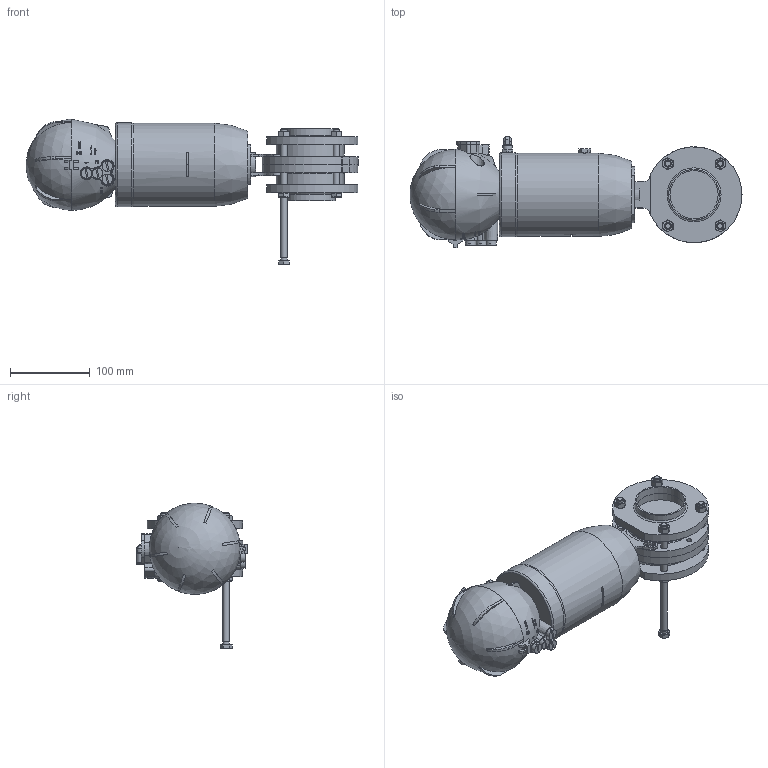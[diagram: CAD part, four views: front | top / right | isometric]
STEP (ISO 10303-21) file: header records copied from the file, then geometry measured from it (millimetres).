
FILE_DESCRIPTION(/* description */ ('ZVF V.FARF.DN63.5X1.65 WAF4 MACH98 SE NC 316 EPDM'),/* implementation_level */ '2;1');
FILE_NAME(/* name */ 'C:\_DED_PWS\ZIGN-L\DB\B\EAA\BEAAD9212BEBF-00^SAGOMA.step',/* time_stamp */ '2022-07-15T12:09:57+02:00',/* author */ (''),/* organization */ (''),/* preprocessor_version */ 'ST-DEVELOPER v18.1',/* originating_system */ 'Autodesk Inventor 2022',/* authorisation */ '');
FILE_SCHEMA (('CONFIG_CONTROL_DESIGN'));
Length unit declared in the file: millimetre
Products named in the file (10): BEAAD9212BEBF; 3DAAZVFAA054; Supporto-farf-DN25-65-; TWD031212BBA; TPM022212BBA; RBIAA.M08; RBAAA08X80-00_MIR1; RBIAA.M08-00_MIR1; RBAAA08X80; 3DAAJGIOAA006
Assembly tree (16 placements, depth 2):
  BEAAD9212BEBF
    3DAAZVFAA054
    Supporto-farf-DN25-65-
    TWD031212BBA  x2
    TPM022212BBA  x2
    RBAAA08X80  x3
    RBIAA.M08  x2
    RBAAA08X80-00_MIR1  x2
    RBIAA.M08-00_MIR1  x2
    3DAAJGIOAA006
Bounding box: 415.46 x 139.09 x 181.97 mm (x, y, z)
Volume: 2815770.9 mm3; surface area: 279929 mm2
Topology: 17 solids, 17 shells, 1234 faces, 3206 edges, 2075 vertices
Faces by surface type: plane 833, cylinder 169, cone 159, bspline 56, torus 16, sphere 1
Full cylindrical faces by diameter (mm): 3 x6, 4 x1, 4.917 x12, 5 x1, 6 x2, 6.2 x12, 7 x5, 8 x15, 8.2 x12, 8.3 x1, 8.566 x3, 9.728 x1, 10 x1, 10.106 x1, 11 x1, 11.5 x1, 13 x9, 14.918 x1, 18 x1, 30 x2, 30.3 x1, 60.2 x2, 63.5 x2, 85 x2, 97.8 x1, 98 x1, 104 x1, 105 x1
Entity records: 37210 total; most frequent: CARTESIAN_POINT 8964, DIRECTION 5852, ORIENTED_EDGE 5664, EDGE_CURVE 2832, AXIS2_PLACEMENT_3D 2381, VERTEX_POINT 1864, EDGE_LOOP 1206, LINE 1090
